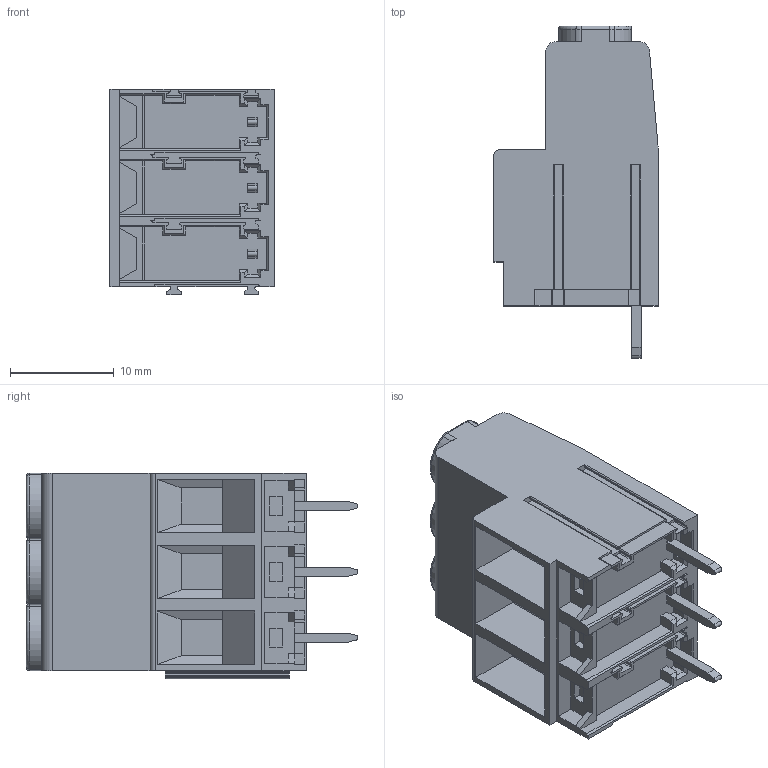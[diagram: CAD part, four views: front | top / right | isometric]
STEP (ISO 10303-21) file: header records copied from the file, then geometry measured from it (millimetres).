
FILE_DESCRIPTION((''),'2;1');
FILE_NAME('33','2019-04-18T',('zhenbing.lai'),(''),'CREO PARAMETRIC BY PTC INC, 2016260','CREO PARAMETRIC BY PTC INC, 2016260','');
FILE_SCHEMA(('CONFIG_CONTROL_DESIGN'));
Length unit declared in the file: millimetre
Products named in the file (1): 33
Bounding box: 15.85 x 32 x 19.85 mm (x, y, z)
Volume: 4986.4 mm3; surface area: 3915.3 mm2
Topology: 1 solids, 5 shells, 628 faces, 1709 edges, 1108 vertices
Faces by surface type: plane 413, cylinder 167, torus 36, cone 12
Entity records: 19998 total; most frequent: CARTESIAN_POINT 3884, ORIENTED_EDGE 3418, DIRECTION 3305, EDGE_CURVE 1709, VECTOR 1201, LINE 1201, VERTEX_POINT 1108, AXIS2_PLACEMENT_3D 1052
